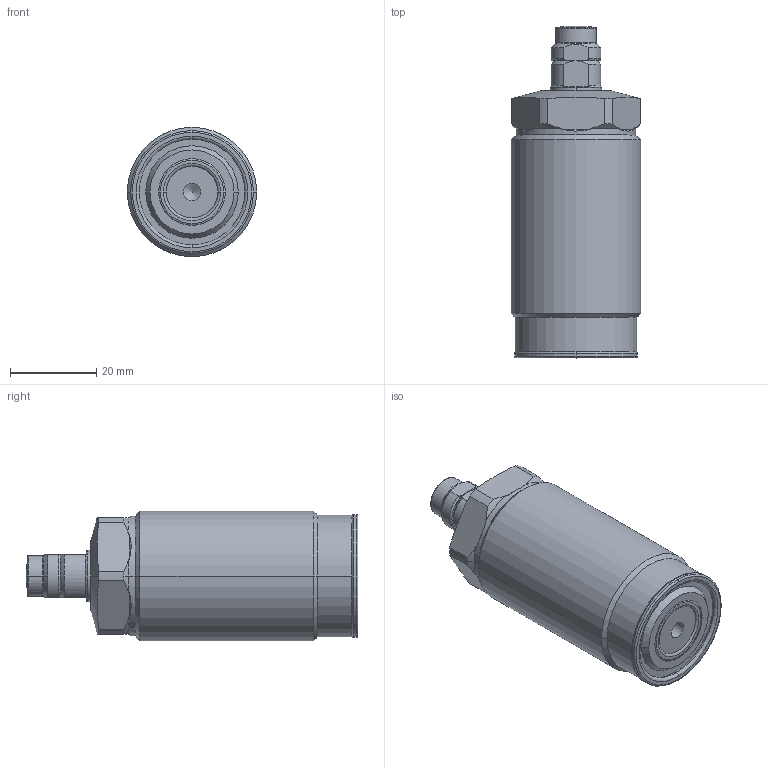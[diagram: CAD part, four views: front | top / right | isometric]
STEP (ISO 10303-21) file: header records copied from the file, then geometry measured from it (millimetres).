
FILE_DESCRIPTION(/* description */ (''),/* implementation_level */ '2;1');
FILE_NAME(/* name */ 'TSC30-M.stp',/* time_stamp */ '2025-01-10T15:29:06+08:00',/* author */ (''),/* organization */ (''),/* preprocessor_version */ 'ST-DEVELOPER v16.7',/* originating_system */ 'SIEMENS PLM Software NX 12.0',/* authorisation */ '');
FILE_SCHEMA (('AUTOMOTIVE_DESIGN { 1 0 10303 214 3 1 1 1 }'));
Length unit declared in the file: millimetre
Products named in the file (11): XLD-M8SP_pad166; XLD-M8SP_pin167; XLD-M8_Oring168; XLD-M8SP_contactbolt169; XLD-M8_Oring737170; TSC30-M-01171; TSC30-M-03172; TSC30-M-01173; TSC30-M-005; TSC30-M-04175; TSC30-M_stp
Assembly tree (10 placements, depth 3):
  TSC30-M_stp
    TSC30-M-01173
    TSC30-M-03172
    TSC30-M-04175
      XLD-M8_Oring737170
    TSC30-M-01171
    TSC30-M-005
      XLD-M8SP_contactbolt169
      XLD-M8_Oring168
      XLD-M8SP_pin167
      XLD-M8SP_pad166
Bounding box: 30 x 77 x 30 mm (x, y, z)
Volume: 41552.4 mm3; surface area: 10539.8 mm2
Topology: 8 solids, 8 shells, 200 faces, 457 edges, 280 vertices
Faces by surface type: cylinder 63, torus 45, plane 45, cone 41, sphere 6
Full cylindrical faces by diameter (mm): 4 x1
Entity records: 6292 total; most frequent: CARTESIAN_POINT 1423, DIRECTION 1074, ORIENTED_EDGE 908, AXIS2_PLACEMENT_3D 469, EDGE_CURVE 454, VERTEX_POINT 280, CIRCLE 258, EDGE_LOOP 223
